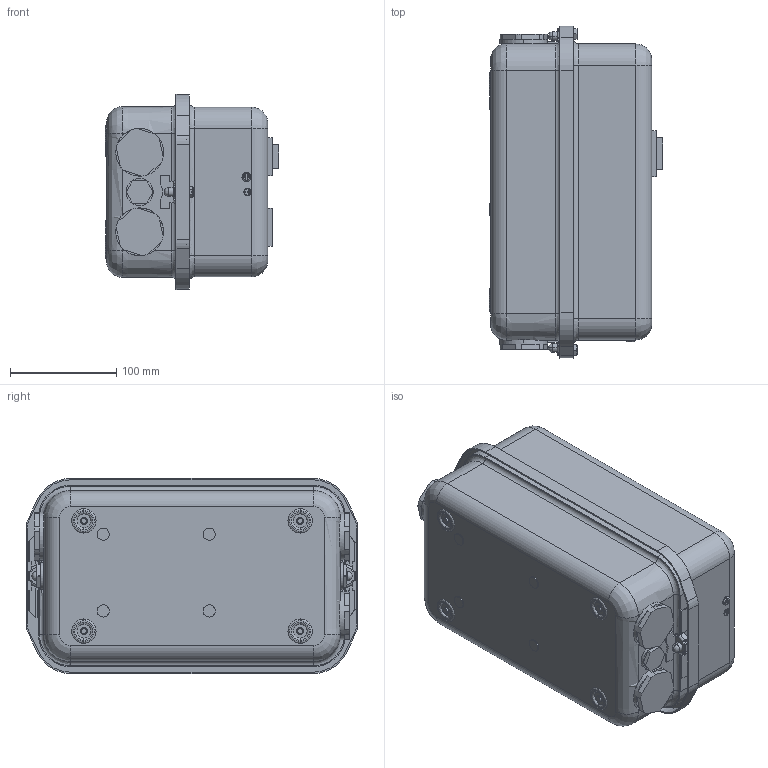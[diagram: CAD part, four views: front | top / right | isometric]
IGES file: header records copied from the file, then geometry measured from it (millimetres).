
Global section: file name: Filename.iges; native system: Open CASCADE 7.3; preprocessor: Open CASCADE IGES processor 7.3; date: 20200810.110351; units: millimetre
Bounding box: 163.6 x 313 x 184 mm (x, y, z)
Surface area: 269036.7 mm2 (no closed solid volume)
Topology: 0 solids, 0 shells, 558 faces, 5652 edges, 14128 vertices
Faces by surface type: plane 366, revolution 192
